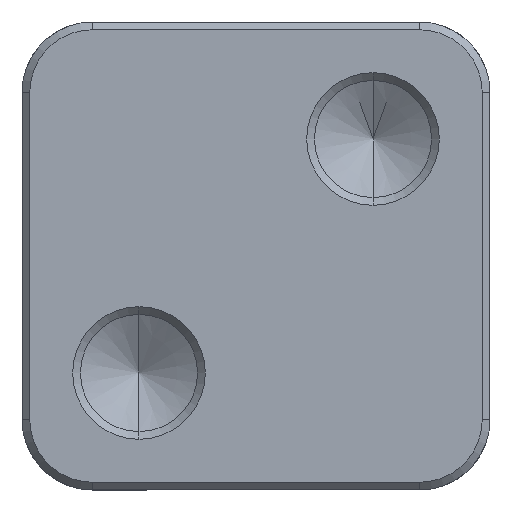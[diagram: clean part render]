
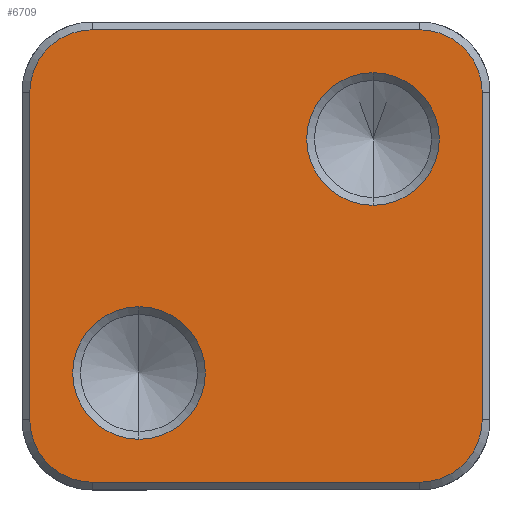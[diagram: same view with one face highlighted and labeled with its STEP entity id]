
A CAD part, front view. The second image highlights one B-rep face of the part: STEP entity #6709.
In plain terms, the highlighted planar face has unit normal (0, -1, 0).
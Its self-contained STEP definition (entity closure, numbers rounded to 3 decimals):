
#332 = CARTESIAN_POINT ( 'NONE',  ( -4.833, 0., 3.498 ) ) ;
#341 = DIRECTION ( 'NONE',  ( 0., 0., -1. ) ) ;
#499 = ORIENTED_EDGE ( 'NONE', *, *, #1959, .T. ) ;
#710 = ORIENTED_EDGE ( 'NONE', *, *, #12909, .T. ) ;
#1138 = DIRECTION ( 'NONE',  ( 0., 0., 1. ) ) ;
#1280 = DIRECTION ( 'NONE',  ( 0., -1., 0. ) ) ;
#1284 = VERTEX_POINT ( 'NONE', #5970 ) ;
#1412 = AXIS2_PLACEMENT_3D ( 'NONE', #8357, #13312, #5915 ) ;
#1580 = EDGE_CURVE ( 'NONE', #10253, #12515, #6803, .T. ) ;
#1642 = EDGE_CURVE ( 'NONE', #8396, #10253, #9433, .T. ) ;
#1959 = EDGE_CURVE ( 'NONE', #13812, #10179, #15737, .T. ) ;
#2285 = ORIENTED_EDGE ( 'NONE', *, *, #12452, .T. ) ;
#2509 = DIRECTION ( 'NONE',  ( 0., 0., 1. ) ) ;
#2589 = CIRCLE ( 'NONE', #3893, 1.417 ) ;
#3504 = DIRECTION ( 'NONE',  ( 0., 0., -1. ) ) ;
#3563 = DIRECTION ( 'NONE',  ( 0., 0., 1. ) ) ;
#3716 = VERTEX_POINT ( 'NONE', #332 ) ;
#3773 = LINE ( 'NONE', #15980, #13196 ) ;
#3819 = DIRECTION ( 'NONE',  ( 0., -1., 0. ) ) ;
#3893 = AXIS2_PLACEMENT_3D ( 'NONE', #14492, #15874, #3504 ) ;
#3902 = DIRECTION ( 'NONE',  ( 0., 0., -1. ) ) ;
#4043 = DIRECTION ( 'NONE',  ( 0., 0., -1. ) ) ;
#4222 = DIRECTION ( 'NONE',  ( 0., 0., 1. ) ) ;
#4262 = LINE ( 'NONE', #6714, #12276 ) ;
#4399 = CARTESIAN_POINT ( 'NONE',  ( 4.833, 0., 3.498 ) ) ;
#4525 = EDGE_LOOP ( 'NONE', ( #13695, #11767, #12334, #11588, #11181, #4760, #6271, #2285 ) ) ;
#4649 = EDGE_CURVE ( 'NONE', #7199, #1284, #4262, .T. ) ;
#4760 = ORIENTED_EDGE ( 'NONE', *, *, #1642, .T. ) ;
#5032 = EDGE_CURVE ( 'NONE', #1284, #8396, #15663, .T. ) ;
#5152 = DIRECTION ( 'NONE',  ( 0., -1., 0. ) ) ;
#5443 = ORIENTED_EDGE ( 'NONE', *, *, #13893, .T. ) ;
#5612 = CARTESIAN_POINT ( 'NONE',  ( 4.833, 0., -5.003 ) ) ;
#5915 = DIRECTION ( 'NONE',  ( 0., 0., 1. ) ) ;
#5952 = EDGE_CURVE ( 'NONE', #14066, #7199, #10917, .T. ) ;
#5970 = CARTESIAN_POINT ( 'NONE',  ( 3.5, 0., -4.836 ) ) ;
#5988 = EDGE_CURVE ( 'NONE', #10179, #13812, #2589, .T. ) ;
#6190 = DIRECTION ( 'NONE',  ( 0., 1., 0. ) ) ;
#6271 = ORIENTED_EDGE ( 'NONE', *, *, #1580, .T. ) ;
#6294 = FACE_BOUND ( 'NONE', #7582, .T. ) ;
#6508 = CARTESIAN_POINT ( 'NONE',  ( 3.5, 0., 3.498 ) ) ;
#6709 = ADVANCED_FACE ( 'NONE', ( #10271, #8805, #6294 ), #7756, .T. ) ;
#6714 = CARTESIAN_POINT ( 'NONE',  ( 5., 0., -4.836 ) ) ;
#6760 = VERTEX_POINT ( 'NONE', #15392 ) ;
#6803 = CIRCLE ( 'NONE', #15354, 1.333 ) ;
#6823 = CARTESIAN_POINT ( 'NONE',  ( 2.5, 0., 1.081 ) ) ;
#7199 = VERTEX_POINT ( 'NONE', #9413 ) ;
#7313 = CARTESIAN_POINT ( 'NONE',  ( 3.5, 0., -3.503 ) ) ;
#7582 = EDGE_LOOP ( 'NONE', ( #710, #5443 ) ) ;
#7756 = PLANE ( 'NONE',  #13439 ) ;
#8059 = VERTEX_POINT ( 'NONE', #6823 ) ;
#8357 = CARTESIAN_POINT ( 'NONE',  ( -3.5, 0., 3.498 ) ) ;
#8396 = VERTEX_POINT ( 'NONE', #14890 ) ;
#8441 = CIRCLE ( 'NONE', #1412, 1.333 ) ;
#8643 = AXIS2_PLACEMENT_3D ( 'NONE', #7313, #1280, #3563 ) ;
#8805 = FACE_BOUND ( 'NONE', #13772, .T. ) ;
#8918 = DIRECTION ( 'NONE',  ( 0., 1., 0. ) ) ;
#9132 = DIRECTION ( 'NONE',  ( 0., 0., -1. ) ) ;
#9413 = CARTESIAN_POINT ( 'NONE',  ( -3.5, 0., -4.836 ) ) ;
#9433 = LINE ( 'NONE', #5612, #12501 ) ;
#9534 = EDGE_CURVE ( 'NONE', #6760, #3716, #8441, .T. ) ;
#9615 = AXIS2_PLACEMENT_3D ( 'NONE', #10918, #12286, #1138 ) ;
#9873 = DIRECTION ( 'NONE',  ( 0., 0., -1. ) ) ;
#10088 = CARTESIAN_POINT ( 'NONE',  ( -2.5, 0., -1.086 ) ) ;
#10179 = VERTEX_POINT ( 'NONE', #12449 ) ;
#10253 = VERTEX_POINT ( 'NONE', #4399 ) ;
#10271 = FACE_OUTER_BOUND ( 'NONE', #4525, .T. ) ;
#10338 = VERTEX_POINT ( 'NONE', #10824 ) ;
#10593 = AXIS2_PLACEMENT_3D ( 'NONE', #13580, #6190, #3902 ) ;
#10620 = DIRECTION ( 'NONE',  ( 1., 0., 0. ) ) ;
#10627 = EDGE_CURVE ( 'NONE', #3716, #14066, #3773, .T. ) ;
#10824 = CARTESIAN_POINT ( 'NONE',  ( 2.5, 0., 3.914 ) ) ;
#10917 = CIRCLE ( 'NONE', #9615, 1.333 ) ;
#10918 = CARTESIAN_POINT ( 'NONE',  ( -3.5, 0., -3.503 ) ) ;
#11106 = AXIS2_PLACEMENT_3D ( 'NONE', #15171, #8918, #4043 ) ;
#11181 = ORIENTED_EDGE ( 'NONE', *, *, #5032, .T. ) ;
#11571 = CARTESIAN_POINT ( 'NONE',  ( -2.5, 0., -2.503 ) ) ;
#11588 = ORIENTED_EDGE ( 'NONE', *, *, #4649, .T. ) ;
#11663 = DIRECTION ( 'NONE',  ( -1., 0., 0. ) ) ;
#11767 = ORIENTED_EDGE ( 'NONE', *, *, #10627, .T. ) ;
#11880 = CIRCLE ( 'NONE', #10593, 1.417 ) ;
#12059 = CARTESIAN_POINT ( 'NONE',  ( 3.5, 0., 4.831 ) ) ;
#12276 = VECTOR ( 'NONE', #10620, 1000. ) ;
#12286 = DIRECTION ( 'NONE',  ( 0., -1., 0. ) ) ;
#12334 = ORIENTED_EDGE ( 'NONE', *, *, #5952, .T. ) ;
#12449 = CARTESIAN_POINT ( 'NONE',  ( -2.5, 0., -3.92 ) ) ;
#12452 = EDGE_CURVE ( 'NONE', #12515, #6760, #15227, .T. ) ;
#12501 = VECTOR ( 'NONE', #4222, 1000. ) ;
#12515 = VERTEX_POINT ( 'NONE', #12059 ) ;
#12872 = AXIS2_PLACEMENT_3D ( 'NONE', #11571, #14095, #9132 ) ;
#12879 = CARTESIAN_POINT ( 'NONE',  ( 5., 0., 4.831 ) ) ;
#12909 = EDGE_CURVE ( 'NONE', #8059, #10338, #13172, .T. ) ;
#13172 = CIRCLE ( 'NONE', #11106, 1.417 ) ;
#13196 = VECTOR ( 'NONE', #9873, 1000. ) ;
#13207 = VECTOR ( 'NONE', #11663, 1000. ) ;
#13312 = DIRECTION ( 'NONE',  ( 0., -1., 0. ) ) ;
#13439 = AXIS2_PLACEMENT_3D ( 'NONE', #15218, #5152, #341 ) ;
#13580 = CARTESIAN_POINT ( 'NONE',  ( 2.5, 0., 2.498 ) ) ;
#13695 = ORIENTED_EDGE ( 'NONE', *, *, #9534, .T. ) ;
#13772 = EDGE_LOOP ( 'NONE', ( #15346, #499 ) ) ;
#13812 = VERTEX_POINT ( 'NONE', #10088 ) ;
#13893 = EDGE_CURVE ( 'NONE', #10338, #8059, #11880, .T. ) ;
#14066 = VERTEX_POINT ( 'NONE', #14629 ) ;
#14095 = DIRECTION ( 'NONE',  ( 0., 1., 0. ) ) ;
#14492 = CARTESIAN_POINT ( 'NONE',  ( -2.5, 0., -2.503 ) ) ;
#14629 = CARTESIAN_POINT ( 'NONE',  ( -4.833, 0., -3.503 ) ) ;
#14890 = CARTESIAN_POINT ( 'NONE',  ( 4.833, 0., -3.503 ) ) ;
#15171 = CARTESIAN_POINT ( 'NONE',  ( 2.5, 0., 2.498 ) ) ;
#15218 = CARTESIAN_POINT ( 'NONE',  ( 5., 0., -5.003 ) ) ;
#15227 = LINE ( 'NONE', #12879, #13207 ) ;
#15346 = ORIENTED_EDGE ( 'NONE', *, *, #5988, .T. ) ;
#15354 = AXIS2_PLACEMENT_3D ( 'NONE', #6508, #3819, #2509 ) ;
#15392 = CARTESIAN_POINT ( 'NONE',  ( -3.5, 0., 4.831 ) ) ;
#15663 = CIRCLE ( 'NONE', #8643, 1.333 ) ;
#15737 = CIRCLE ( 'NONE', #12872, 1.417 ) ;
#15874 = DIRECTION ( 'NONE',  ( 0., 1., 0. ) ) ;
#15980 = CARTESIAN_POINT ( 'NONE',  ( -4.833, 0., -5.003 ) ) ;
